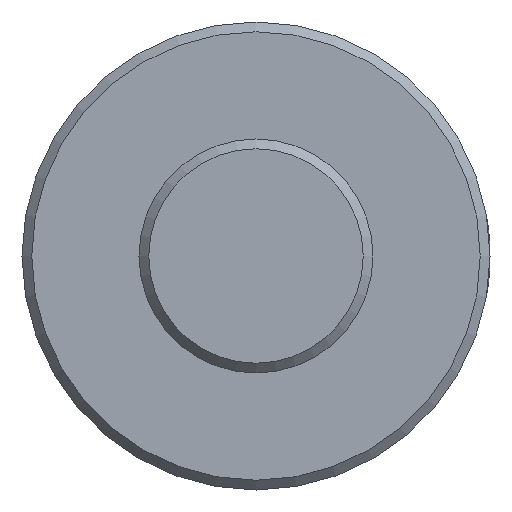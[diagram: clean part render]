
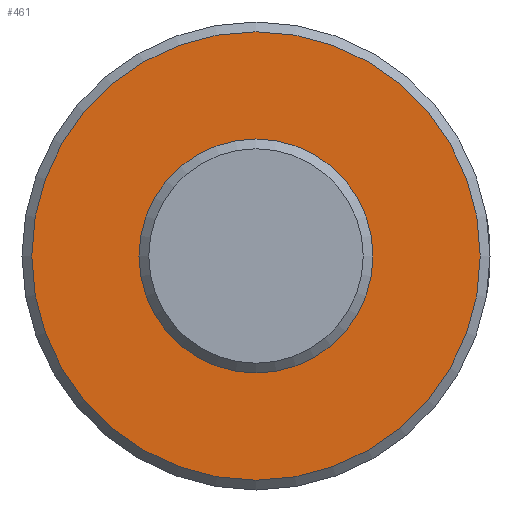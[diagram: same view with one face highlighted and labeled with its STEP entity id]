
A CAD part, left-side view. The second image highlights one B-rep face of the part: STEP entity #461.
In plain terms, the highlighted planar face has unit normal (-1, 0, 0).
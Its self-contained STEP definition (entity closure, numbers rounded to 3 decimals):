
#3 = CARTESIAN_POINT ( 'NONE',  ( -57.5, 0., 0. ) ) ;
#147 = EDGE_CURVE ( 'NONE', #536, #536, #490, .T. ) ;
#171 = VERTEX_POINT ( 'NONE', #458 ) ;
#214 = DIRECTION ( 'NONE',  ( 0., 0., 1. ) ) ;
#255 = PLANE ( 'NONE',  #552 ) ;
#275 = ORIENTED_EDGE ( 'NONE', *, *, #147, .T. ) ;
#290 = DIRECTION ( 'NONE',  ( -1., 0., 0. ) ) ;
#414 = CIRCLE ( 'NONE', #917, 11.5 ) ;
#458 = CARTESIAN_POINT ( 'NONE',  ( -57.5, 0., -11.5 ) ) ;
#461 = ADVANCED_FACE ( 'NONE', ( #681, #607 ), #255, .F. ) ;
#462 = DIRECTION ( 'NONE',  ( 1., 0., 0. ) ) ;
#479 = EDGE_LOOP ( 'NONE', ( #275 ) ) ;
#489 = CARTESIAN_POINT ( 'NONE',  ( -57.5, 0., 0. ) ) ;
#490 = CIRCLE ( 'NONE', #672, 6. ) ;
#496 = DIRECTION ( 'NONE',  ( 0., 1., 0. ) ) ;
#506 = DIRECTION ( 'NONE',  ( 1., 0., 0. ) ) ;
#536 = VERTEX_POINT ( 'NONE', #823 ) ;
#552 = AXIS2_PLACEMENT_3D ( 'NONE', #489, #462, #496 ) ;
#607 = FACE_OUTER_BOUND ( 'NONE', #730, .T. ) ;
#654 = DIRECTION ( 'NONE',  ( 0., 0., -1. ) ) ;
#672 = AXIS2_PLACEMENT_3D ( 'NONE', #929, #506, #214 ) ;
#681 = FACE_BOUND ( 'NONE', #479, .T. ) ;
#730 = EDGE_LOOP ( 'NONE', ( #847 ) ) ;
#815 = EDGE_CURVE ( 'NONE', #171, #171, #414, .T. ) ;
#823 = CARTESIAN_POINT ( 'NONE',  ( -57.5, 0., 6. ) ) ;
#847 = ORIENTED_EDGE ( 'NONE', *, *, #815, .T. ) ;
#917 = AXIS2_PLACEMENT_3D ( 'NONE', #3, #290, #654 ) ;
#929 = CARTESIAN_POINT ( 'NONE',  ( -57.5, 0., 0. ) ) ;
